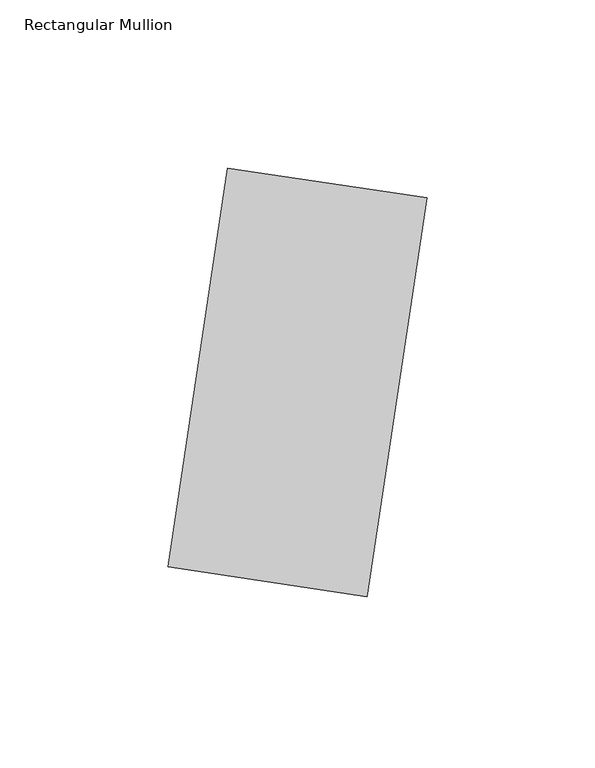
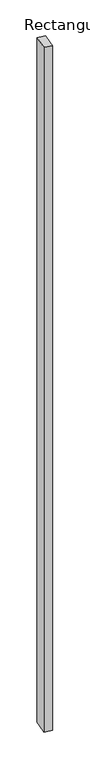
"""IFC4 building model written with IfcOpenShell, lengths in millimetres: member geometry, Rectangular Mullion : TERÇA 6x12 cm."""

from ifc_helpers import new_model, si_unit, frame, origin, place, context, project, spatial, polyline, outline, extrude, source, transform, mapped, element, save


def rectangular_mullion_e5008ad0(model_context):
    return source(origin(), model_context, "Body", "SweptSolid", [
        extrude(outline(polyline([(-29.6680906, 4.4502136), (-11.8672362, 123.1225759), (47.4689449, 114.2221488), (29.6680906, -4.4502136), (-29.6680906, 4.4502136)])), frame((0.0, 0.0, -5400.0), z_axis=(0.0, 0.0, 1.0), x_axis=(1.0, 0.0, 0.0)), (0.0, 0.0, 1.0), 5400.0),
    ])


if __name__ == "__main__":
    model = new_model("IFC4")
    model_context = context("Model", 3, world=origin())
    ifc_project = project(units=[si_unit("LENGTHUNIT", "METRE", prefix="MILLI")], contexts=[model_context])
    site = spatial("IfcSite", under=ifc_project)
    building = spatial("IfcBuilding", under=site)
    placement = place(None, origin())
    rectangular_mullion_shape = rectangular_mullion_e5008ad0(model_context)
    element("IfcMember", 1, ObjectType="Rectangular Mullion : TERÇA 6x12 cm", at=placement, inside=building, context=model_context, shape_type="MappedRepresentation", body=[
        mapped(rectangular_mullion_shape, transform((0.0, 0.0, 0.0), x_axis=(1.0, 0.0, 0.0), y_axis=(0.0, 1.0, 0.0), z_axis=(0.0, 0.0, 1.0))),
    ])
    save(model, "model.ifc")
